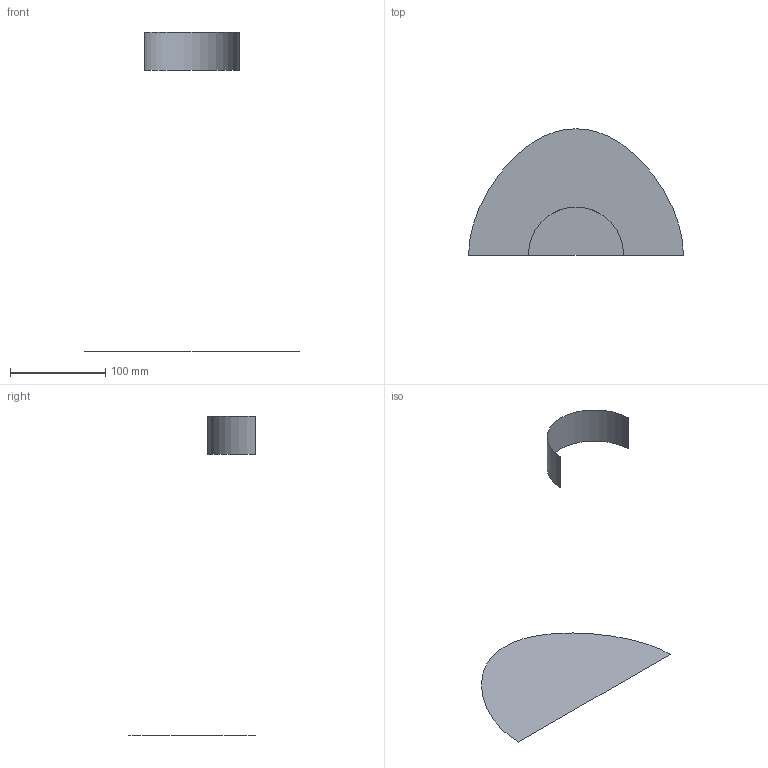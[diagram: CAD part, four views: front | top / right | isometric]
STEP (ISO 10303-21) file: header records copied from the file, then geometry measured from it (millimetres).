
FILE_DESCRIPTION(('CATIA V5 STEP Exchange'),'2;1');
FILE_NAME('C:\_Andres\UNIVERSIDAD\IQS\ASIGNATURAS\DAO\Controles\1617\c1\1original\Perez_Pellicer_Ej00-base_v23.stp','2017-02-06T16:27:48+00:00',('none'),('none'),'CATIA Version 5-6 Release 2014 SP1 HF18','CATIA V5 STEP AP203','none');
FILE_SCHEMA(('CONFIG_CONTROL_DESIGN'));
Length unit declared in the file: millimetre
Products named in the file (1): Perez_Pellicer_Ej00-base_v23
Bounding box: 226 x 133 x 336 mm (x, y, z)
Surface area: 28913.1 mm2 (no closed solid volume)
Topology: 0 solids, 2 shells, 2 faces, 16 edges, 26 vertices
Faces by surface type: cylinder 1, plane 1
Entity records: 230 total; most frequent: CARTESIAN_POINT 78, DIRECTION 16, COMPOSITE_CURVE_SEGMENT 9, TRIMMED_CURVE 9, AXIS2_PLACEMENT_3D 8, COMPOSITE_CURVE 7, ORIENTED_EDGE 7, EDGE_CURVE 7
